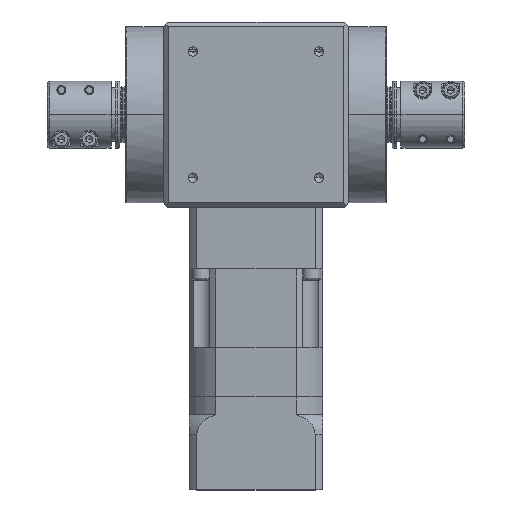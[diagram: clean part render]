
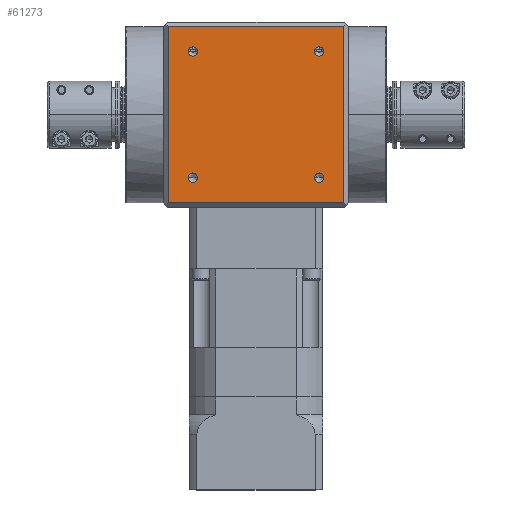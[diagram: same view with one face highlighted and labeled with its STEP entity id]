
A CAD part, top view. The second image highlights one B-rep face of the part: STEP entity #61273.
In plain terms, the highlighted planar face has unit normal (0, 0, 1).
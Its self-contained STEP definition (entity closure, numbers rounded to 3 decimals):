
#178 = PLANE ( 'NONE',  #709 ) ;
#709 = AXIS2_PLACEMENT_3D ( 'NONE', #85029, #38966, #92782 ) ;
#1999 = DIRECTION ( 'NONE',  ( 0., 0., -1. ) ) ;
#2795 = FACE_BOUND ( 'NONE', #66289, .T. ) ;
#3576 = ORIENTED_EDGE ( 'NONE', *, *, #93786, .F. ) ;
#3912 = VERTEX_POINT ( 'NONE', #32180 ) ;
#4508 = VERTEX_POINT ( 'NONE', #14054 ) ;
#5881 = DIRECTION ( 'NONE',  ( 0., -1., 0. ) ) ;
#6011 = AXIS2_PLACEMENT_3D ( 'NONE', #42101, #95922, #49848 ) ;
#6114 = VERTEX_POINT ( 'NONE', #12667 ) ;
#6190 = CARTESIAN_POINT ( 'NONE',  ( -39.292, 175.2, 41.5 ) ) ;
#6295 = CARTESIAN_POINT ( 'NONE',  ( -39.292, 96.2, 41.5 ) ) ;
#6514 = CARTESIAN_POINT ( 'NONE',  ( 28.284, 107.416, 41.5 ) ) ;
#8075 = EDGE_CURVE ( 'NONE', #74691, #4508, #28265, .T. ) ;
#9271 = DIRECTION ( 'NONE',  ( 0., -1., 0. ) ) ;
#9411 = EDGE_CURVE ( 'NONE', #72234, #24711, #82259, .T. ) ;
#11399 = EDGE_CURVE ( 'NONE', #24711, #72234, #72393, .T. ) ;
#11825 = AXIS2_PLACEMENT_3D ( 'NONE', #68509, #22490, #76253 ) ;
#12333 = CARTESIAN_POINT ( 'NONE',  ( -28.284, 105.316, 41.5 ) ) ;
#12667 = CARTESIAN_POINT ( 'NONE',  ( 39.292, 175.2, 41.5 ) ) ;
#14054 = CARTESIAN_POINT ( 'NONE',  ( 28.284, 109.516, 41.5 ) ) ;
#14116 = ORIENTED_EDGE ( 'NONE', *, *, #41124, .F. ) ;
#14160 = DIRECTION ( 'NONE',  ( 0., -1., 0. ) ) ;
#14484 = CARTESIAN_POINT ( 'NONE',  ( 0., 175.2, 41.5 ) ) ;
#15764 = CARTESIAN_POINT ( 'NONE',  ( 28.284, 163.984, 41.5 ) ) ;
#15801 = EDGE_CURVE ( 'NONE', #66210, #19228, #61812, .T. ) ;
#16020 = DIRECTION ( 'NONE',  ( 0., 1., 0. ) ) ;
#17765 = ORIENTED_EDGE ( 'NONE', *, *, #90444, .F. ) ;
#18598 = VERTEX_POINT ( 'NONE', #54211 ) ;
#19047 = VECTOR ( 'NONE', #9271, 1000. ) ;
#19228 = VERTEX_POINT ( 'NONE', #6190 ) ;
#20878 = CARTESIAN_POINT ( 'NONE',  ( 28.284, 166.084, 41.5 ) ) ;
#21607 = VERTEX_POINT ( 'NONE', #37596 ) ;
#22490 = DIRECTION ( 'NONE',  ( 0., 0., 1. ) ) ;
#22959 = CARTESIAN_POINT ( 'NONE',  ( 28.284, 163.984, 41.5 ) ) ;
#23149 = FACE_BOUND ( 'NONE', #79637, .T. ) ;
#23330 = EDGE_CURVE ( 'NONE', #4508, #74691, #28791, .T. ) ;
#23404 = ORIENTED_EDGE ( 'NONE', *, *, #11399, .F. ) ;
#23450 = DIRECTION ( 'NONE',  ( 0., -1., 0. ) ) ;
#23475 = VERTEX_POINT ( 'NONE', #93674 ) ;
#24711 = VERTEX_POINT ( 'NONE', #12333 ) ;
#26612 = AXIS2_PLACEMENT_3D ( 'NONE', #47880, #1999, #55638 ) ;
#28265 = CIRCLE ( 'NONE', #44459, 2.1 ) ;
#28791 = CIRCLE ( 'NONE', #70381, 2.1 ) ;
#30648 = DIRECTION ( 'NONE',  ( 0., -1., 0. ) ) ;
#31779 = ORIENTED_EDGE ( 'NONE', *, *, #23330, .F. ) ;
#32180 = CARTESIAN_POINT ( 'NONE',  ( -28.284, 161.884, 41.5 ) ) ;
#37596 = CARTESIAN_POINT ( 'NONE',  ( -28.284, 166.084, 41.5 ) ) ;
#38087 = AXIS2_PLACEMENT_3D ( 'NONE', #97887, #51814, #5881 ) ;
#38880 = DIRECTION ( 'NONE',  ( 0., 0., 1. ) ) ;
#38966 = DIRECTION ( 'NONE',  ( 0., 0., -1. ) ) ;
#41124 = EDGE_CURVE ( 'NONE', #18598, #66210, #89269, .T. ) ;
#41341 = VECTOR ( 'NONE', #16020, 1000. ) ;
#42101 = CARTESIAN_POINT ( 'NONE',  ( -28.284, 107.416, 41.5 ) ) ;
#43543 = FACE_BOUND ( 'NONE', #61839, .T. ) ;
#44256 = LINE ( 'NONE', #78394, #19047 ) ;
#44459 = AXIS2_PLACEMENT_3D ( 'NONE', #6514, #60146, #14160 ) ;
#47352 = EDGE_LOOP ( 'NONE', ( #79294, #97702 ) ) ;
#47776 = CARTESIAN_POINT ( 'NONE',  ( -28.284, 109.516, 41.5 ) ) ;
#47880 = CARTESIAN_POINT ( 'NONE',  ( -28.284, 163.984, 41.5 ) ) ;
#49848 = DIRECTION ( 'NONE',  ( 0., -1., 0. ) ) ;
#51814 = DIRECTION ( 'NONE',  ( 0., 0., -1. ) ) ;
#54211 = CARTESIAN_POINT ( 'NONE',  ( 39.292, 96.2, 41.5 ) ) ;
#55638 = DIRECTION ( 'NONE',  ( 0., -1., 0. ) ) ;
#60146 = DIRECTION ( 'NONE',  ( 0., 0., 1. ) ) ;
#60971 = ORIENTED_EDGE ( 'NONE', *, *, #98105, .T. ) ;
#61273 = ADVANCED_FACE ( 'NONE', ( #66397, #23149, #43543, #84456, #2795 ), #178, .F. ) ;
#61812 = LINE ( 'NONE', #77441, #41341 ) ;
#61839 = EDGE_LOOP ( 'NONE', ( #94611, #31779 ) ) ;
#62469 = DIRECTION ( 'NONE',  ( -1., 0., 0. ) ) ;
#65476 = LINE ( 'NONE', #14484, #93203 ) ;
#66210 = VERTEX_POINT ( 'NONE', #6295 ) ;
#66289 = EDGE_LOOP ( 'NONE', ( #95353, #60971 ) ) ;
#66397 = FACE_OUTER_BOUND ( 'NONE', #91619, .T. ) ;
#66570 = CIRCLE ( 'NONE', #77394, 2.1 ) ;
#68187 = DIRECTION ( 'NONE',  ( 1., 0., 0. ) ) ;
#68509 = CARTESIAN_POINT ( 'NONE',  ( -28.284, 107.416, 41.5 ) ) ;
#68799 = VECTOR ( 'NONE', #62469, 1000. ) ;
#69450 = DIRECTION ( 'NONE',  ( 0., 0., -1. ) ) ;
#69893 = CARTESIAN_POINT ( 'NONE',  ( -41.5, 96.2, 41.5 ) ) ;
#70381 = AXIS2_PLACEMENT_3D ( 'NONE', #84935, #38880, #92673 ) ;
#72234 = VERTEX_POINT ( 'NONE', #47776 ) ;
#72393 = CIRCLE ( 'NONE', #11825, 2.1 ) ;
#73596 = CIRCLE ( 'NONE', #26612, 2.1 ) ;
#73747 = AXIS2_PLACEMENT_3D ( 'NONE', #22959, #76704, #30648 ) ;
#74038 = CARTESIAN_POINT ( 'NONE',  ( 28.284, 105.316, 41.5 ) ) ;
#74691 = VERTEX_POINT ( 'NONE', #74038 ) ;
#76136 = EDGE_CURVE ( 'NONE', #3912, #21607, #78592, .T. ) ;
#76253 = DIRECTION ( 'NONE',  ( 0., -1., 0. ) ) ;
#76704 = DIRECTION ( 'NONE',  ( 0., 0., -1. ) ) ;
#77394 = AXIS2_PLACEMENT_3D ( 'NONE', #15764, #69450, #23450 ) ;
#77441 = CARTESIAN_POINT ( 'NONE',  ( -39.292, 177.2, 41.5 ) ) ;
#78394 = CARTESIAN_POINT ( 'NONE',  ( 39.292, 0., 41.5 ) ) ;
#78592 = CIRCLE ( 'NONE', #38087, 2.1 ) ;
#79294 = ORIENTED_EDGE ( 'NONE', *, *, #79407, .T. ) ;
#79407 = EDGE_CURVE ( 'NONE', #23475, #82159, #91582, .T. ) ;
#79637 = EDGE_LOOP ( 'NONE', ( #23404, #88453 ) ) ;
#82159 = VERTEX_POINT ( 'NONE', #20878 ) ;
#82259 = CIRCLE ( 'NONE', #6011, 2.1 ) ;
#84456 = FACE_BOUND ( 'NONE', #47352, .T. ) ;
#84642 = ORIENTED_EDGE ( 'NONE', *, *, #15801, .F. ) ;
#84935 = CARTESIAN_POINT ( 'NONE',  ( 28.284, 107.416, 41.5 ) ) ;
#85029 = CARTESIAN_POINT ( 'NONE',  ( -41.5, 177.2, 41.5 ) ) ;
#88453 = ORIENTED_EDGE ( 'NONE', *, *, #9411, .F. ) ;
#89269 = LINE ( 'NONE', #69893, #68799 ) ;
#90444 = EDGE_CURVE ( 'NONE', #6114, #18598, #44256, .T. ) ;
#91582 = CIRCLE ( 'NONE', #73747, 2.1 ) ;
#91619 = EDGE_LOOP ( 'NONE', ( #14116, #17765, #3576, #84642 ) ) ;
#92673 = DIRECTION ( 'NONE',  ( 0., -1., 0. ) ) ;
#92782 = DIRECTION ( 'NONE',  ( 0., 1., 0. ) ) ;
#93203 = VECTOR ( 'NONE', #68187, 1000. ) ;
#93674 = CARTESIAN_POINT ( 'NONE',  ( 28.284, 161.884, 41.5 ) ) ;
#93786 = EDGE_CURVE ( 'NONE', #19228, #6114, #65476, .T. ) ;
#94611 = ORIENTED_EDGE ( 'NONE', *, *, #8075, .F. ) ;
#95353 = ORIENTED_EDGE ( 'NONE', *, *, #76136, .T. ) ;
#95922 = DIRECTION ( 'NONE',  ( 0., 0., 1. ) ) ;
#96639 = EDGE_CURVE ( 'NONE', #82159, #23475, #66570, .T. ) ;
#97702 = ORIENTED_EDGE ( 'NONE', *, *, #96639, .T. ) ;
#97887 = CARTESIAN_POINT ( 'NONE',  ( -28.284, 163.984, 41.5 ) ) ;
#98105 = EDGE_CURVE ( 'NONE', #21607, #3912, #73596, .T. ) ;
